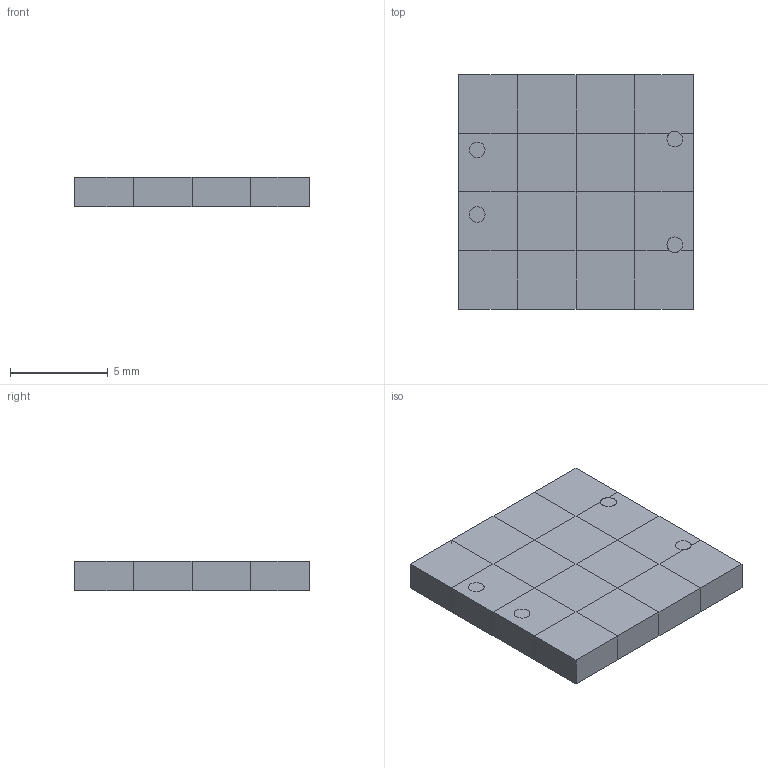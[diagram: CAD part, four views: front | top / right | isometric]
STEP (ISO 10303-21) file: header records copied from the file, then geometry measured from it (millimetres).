
FILE_DESCRIPTION(('Open CASCADE Model'),'2;1');
FILE_NAME('Open CASCADE Shape Model','2026-11-27T06:05:43',('Author'),( 'Open CASCADE'),'Open CASCADE STEP processor 7.9','Open CASCADE 7.9' ,'Unknown');
FILE_SCHEMA(('AUTOMOTIVE_DESIGN { 1 0 10303 214 1 1 1 1 }'));
Length unit declared in the file: millimetre
Products named in the file (3): manifold_S9; fluid; solid
Assembly tree (2 placements, depth 2):
  manifold_S9
    fluid
    solid
Bounding box: 12 x 12 x 1.5 mm (x, y, z)
Volume: 216 mm3; surface area: 1524.4 mm2
Topology: 2 solids, 2 shells, 1260 faces, 4400 edges, 2432 vertices
Faces by surface type: plane 1252, cylinder 8
Full cylindrical faces by diameter (mm): 0.8 x8
Entity records: 103290 total; most frequent: CARTESIAN_POINT 17739, DIRECTION 15554, LINE 12772, VECTOR 12772, ORIENTED_EDGE 8800, PCURVE 8800, DEFINITIONAL_REPRESENTATION 8800, EDGE_CURVE 4400
